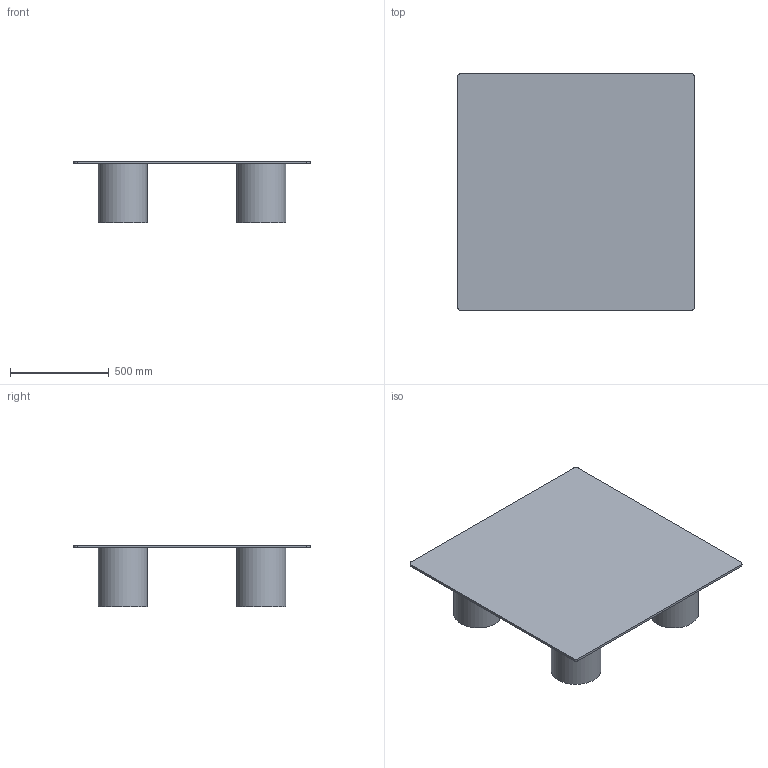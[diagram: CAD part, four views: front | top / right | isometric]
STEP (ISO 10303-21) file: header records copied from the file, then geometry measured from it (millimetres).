
FILE_DESCRIPTION(/* description */ (''),/* implementation_level */ '2;1');
FILE_NAME(/* name */ '0668 - Luxor 120x120 H30',/* time_stamp */ '2012-06-20T15:20:23+02:00',/* author */ (''),/* organization */ (''),/* preprocessor_version */ 'ST-DEVELOPER v10',/* originating_system */ '',/* authorisation */ '');
FILE_SCHEMA (('CONFIG_CONTROL_DESIGN'));
Length unit declared in the file: millimetre
Products named in the file (1): 1
Bounding box: 1200 x 1200 x 312 mm (x, y, z)
Volume: 24793975.8 mm3; surface area: 4517673.4 mm2
Topology: 5 solids, 5 shells, 38 faces, 84 edges, 56 vertices
Faces by surface type: plane 26, bspline 12
Entity records: 1264 total; most frequent: CARTESIAN_POINT 612, ORIENTED_EDGE 168, EDGE_CURVE 84, VERTEX_POINT 56, B_SPLINE_CURVE_WITH_KNOTS 52, ADVANCED_FACE 38, FACE_OUTER_BOUND 38, EDGE_LOOP 38
